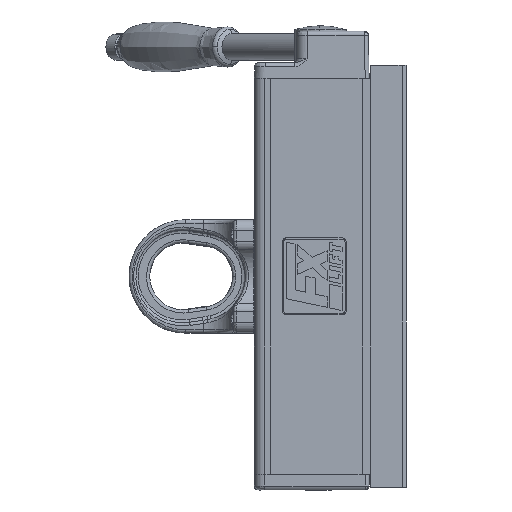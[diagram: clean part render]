
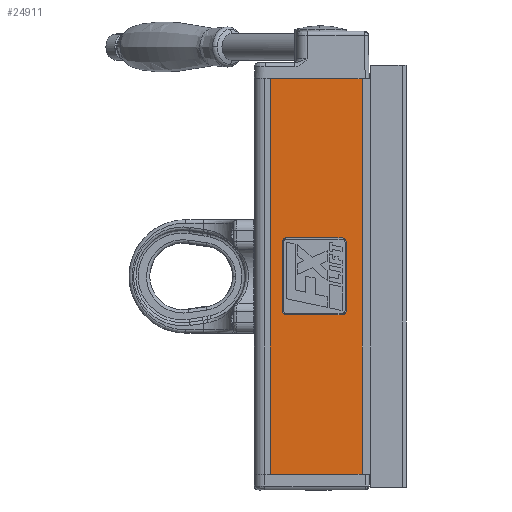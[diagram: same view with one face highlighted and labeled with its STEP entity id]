
A CAD part, left-side view. The second image highlights one B-rep face of the part: STEP entity #24911.
In plain terms, the highlighted planar face has unit normal (-1, 0, 0).
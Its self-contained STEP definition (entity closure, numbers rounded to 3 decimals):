
#480 = VERTEX_POINT ( 'NONE', #53820 ) ;
#827 = ORIENTED_EDGE ( 'NONE', *, *, #12209, .T. ) ;
#2340 = CARTESIAN_POINT ( 'NONE',  ( -54.5, 25.631, 29.163 ) ) ;
#2371 = FACE_OUTER_BOUND ( 'NONE', #34442, .T. ) ;
#2479 = VERTEX_POINT ( 'NONE', #10794 ) ;
#2505 = DIRECTION ( 'NONE',  ( 1., 0., 0. ) ) ;
#2716 = ORIENTED_EDGE ( 'NONE', *, *, #32974, .T. ) ;
#3443 = CARTESIAN_POINT ( 'NONE',  ( -54.5, 28.87, -25.892 ) ) ;
#4213 = CARTESIAN_POINT ( 'NONE',  ( -54.5, 28.87, 27.705 ) ) ;
#4722 = B_SPLINE_CURVE_WITH_KNOTS ( 'NONE', 3,
 ( #17913, #52042, #32665, #3443 ),
 .UNSPECIFIED., .F., .F.,
 ( 4, 4 ),
 ( 0.778, 1. ),
 .UNSPECIFIED. ) ;
#5367 = VECTOR ( 'NONE', #52840, 1000. ) ;
#6070 = ORIENTED_EDGE ( 'NONE', *, *, #56304, .T. ) ;
#6614 = CARTESIAN_POINT ( 'NONE',  ( -54.5, -19.708, 27.705 ) ) ;
#7698 = LINE ( 'NONE', #38308, #43498 ) ;
#8138 = B_SPLINE_CURVE_WITH_KNOTS ( 'NONE', 3,
 ( #9097, #4213, #14018, #48091 ),
 .UNSPECIFIED., .F., .F.,
 ( 4, 4 ),
 ( 0.111, 0.222 ),
 .UNSPECIFIED. ) ;
#8814 = VERTEX_POINT ( 'NONE', #2340 ) ;
#9093 = EDGE_CURVE ( 'NONE', #57161, #11183, #7698, .T. ) ;
#9097 = CARTESIAN_POINT ( 'NONE',  ( -54.5, 28.87, 25.924 ) ) ;
#9341 = CARTESIAN_POINT ( 'NONE',  ( -54.5, 38., 150. ) ) ;
#9346 = ORIENTED_EDGE ( 'NONE', *, *, #14802, .T. ) ;
#10521 = VECTOR ( 'NONE', #43763, 1000. ) ;
#10794 = CARTESIAN_POINT ( 'NONE',  ( -54.5, 38., -150. ) ) ;
#11064 = ORIENTED_EDGE ( 'NONE', *, *, #55659, .T. ) ;
#11183 = VERTEX_POINT ( 'NONE', #18639 ) ;
#11273 = CARTESIAN_POINT ( 'NONE',  ( -54.5, -19.708, -25.892 ) ) ;
#12062 = LINE ( 'NONE', #38895, #10521 ) ;
#12209 = EDGE_CURVE ( 'NONE', #46542, #8814, #8138, .T. ) ;
#12236 = CARTESIAN_POINT ( 'NONE',  ( -54.5, -18.251, -29.13 ) ) ;
#12353 = LINE ( 'NONE', #13084, #39810 ) ;
#13084 = CARTESIAN_POINT ( 'NONE',  ( -54.5, -19.708, 0. ) ) ;
#14018 = CARTESIAN_POINT ( 'NONE',  ( -54.5, 27.412, 29.163 ) ) ;
#14680 = DIRECTION ( 'NONE',  ( 0., 0., 1. ) ) ;
#14802 = EDGE_CURVE ( 'NONE', #28120, #480, #12062, .T. ) ;
#15576 = CARTESIAN_POINT ( 'NONE',  ( -54.5, -16.47, -29.13 ) ) ;
#16012 = VECTOR ( 'NONE', #48340, 1000. ) ;
#16182 = CARTESIAN_POINT ( 'NONE',  ( -54.5, -18.251, 29.163 ) ) ;
#16358 = CARTESIAN_POINT ( 'NONE',  ( -54.5, 28.87, 25.924 ) ) ;
#17803 = ORIENTED_EDGE ( 'NONE', *, *, #53702, .T. ) ;
#17913 = CARTESIAN_POINT ( 'NONE',  ( -54.5, 25.631, -29.13 ) ) ;
#18081 = CARTESIAN_POINT ( 'NONE',  ( -54.5, -32.5, -150. ) ) ;
#18304 = LINE ( 'NONE', #18685, #5367 ) ;
#18639 = CARTESIAN_POINT ( 'NONE',  ( -54.5, -32.5, 150. ) ) ;
#18685 = CARTESIAN_POINT ( 'NONE',  ( -54.5, -32.5, 150. ) ) ;
#19375 = CARTESIAN_POINT ( 'NONE',  ( -54.5, 28.87, 0. ) ) ;
#21888 = CARTESIAN_POINT ( 'NONE',  ( -54.5, 38., 150. ) ) ;
#24822 = CARTESIAN_POINT ( 'NONE',  ( -54.5, 38., 150. ) ) ;
#24832 = VERTEX_POINT ( 'NONE', #18081 ) ;
#24911 = ADVANCED_FACE ( 'NONE', ( #2371, #52705 ), #31714, .F. ) ;
#25776 = EDGE_CURVE ( 'NONE', #11183, #24832, #18304, .T. ) ;
#26730 = ORIENTED_EDGE ( 'NONE', *, *, #32333, .T. ) ;
#27479 = EDGE_CURVE ( 'NONE', #57161, #2479, #30568, .T. ) ;
#28061 = CARTESIAN_POINT ( 'NONE',  ( -54.5, -16.47, 29.163 ) ) ;
#28118 = VERTEX_POINT ( 'NONE', #44734 ) ;
#28120 = VERTEX_POINT ( 'NONE', #15576 ) ;
#28545 = DIRECTION ( 'NONE',  ( 0., -1., 0. ) ) ;
#29006 = CARTESIAN_POINT ( 'NONE',  ( -54.5, 38., -150. ) ) ;
#29585 = ORIENTED_EDGE ( 'NONE', *, *, #27479, .T. ) ;
#29589 = ORIENTED_EDGE ( 'NONE', *, *, #25776, .F. ) ;
#30568 = LINE ( 'NONE', #9341, #16012 ) ;
#31569 = VERTEX_POINT ( 'NONE', #56721 ) ;
#31658 = CARTESIAN_POINT ( 'NONE',  ( -54.5, -19.708, -25.892 ) ) ;
#31714 = PLANE ( 'NONE',  #36385 ) ;
#32333 = EDGE_CURVE ( 'NONE', #34427, #28120, #43230, .T. ) ;
#32665 = CARTESIAN_POINT ( 'NONE',  ( -54.5, 28.87, -27.673 ) ) ;
#32974 = EDGE_CURVE ( 'NONE', #28118, #46542, #48417, .T. ) ;
#34427 = VERTEX_POINT ( 'NONE', #11273 ) ;
#34442 = EDGE_LOOP ( 'NONE', ( #48867, #29589, #58449, #29585 ) ) ;
#36385 = AXIS2_PLACEMENT_3D ( 'NONE', #21888, #2505, #36598 ) ;
#36598 = DIRECTION ( 'NONE',  ( 0., 1., 0. ) ) ;
#37260 = VECTOR ( 'NONE', #56922, 1000. ) ;
#38308 = CARTESIAN_POINT ( 'NONE',  ( -54.5, 38., 150. ) ) ;
#38895 = CARTESIAN_POINT ( 'NONE',  ( -54.5, 0., -29.13 ) ) ;
#39780 = VERTEX_POINT ( 'NONE', #28061 ) ;
#39810 = VECTOR ( 'NONE', #52090, 1000. ) ;
#40675 = CARTESIAN_POINT ( 'NONE',  ( -54.5, -19.708, 25.924 ) ) ;
#41402 = EDGE_CURVE ( 'NONE', #39780, #31569, #49422, .T. ) ;
#43230 = B_SPLINE_CURVE_WITH_KNOTS ( 'NONE', 3,
 ( #31658, #60869, #12236, #46280 ),
 .UNSPECIFIED., .F., .F.,
 ( 4, 4 ),
 ( 0.556, 0.667 ),
 .UNSPECIFIED. ) ;
#43498 = VECTOR ( 'NONE', #28545, 1000. ) ;
#43565 = DIRECTION ( 'NONE',  ( 0., -1., 0. ) ) ;
#43763 = DIRECTION ( 'NONE',  ( 0., 1., 0. ) ) ;
#44734 = CARTESIAN_POINT ( 'NONE',  ( -54.5, 28.87, -25.892 ) ) ;
#46280 = CARTESIAN_POINT ( 'NONE',  ( -54.5, -16.47, -29.13 ) ) ;
#46399 = EDGE_CURVE ( 'NONE', #2479, #24832, #48685, .T. ) ;
#46542 = VERTEX_POINT ( 'NONE', #16358 ) ;
#46857 = VECTOR ( 'NONE', #14680, 1000. ) ;
#48091 = CARTESIAN_POINT ( 'NONE',  ( -54.5, 25.631, 29.163 ) ) ;
#48340 = DIRECTION ( 'NONE',  ( 0., 0., -1. ) ) ;
#48417 = LINE ( 'NONE', #19375, #46857 ) ;
#48685 = LINE ( 'NONE', #29006, #37260 ) ;
#48867 = ORIENTED_EDGE ( 'NONE', *, *, #46399, .T. ) ;
#49422 = B_SPLINE_CURVE_WITH_KNOTS ( 'NONE', 3,
 ( #50296, #16182, #6614, #40675 ),
 .UNSPECIFIED., .F., .F.,
 ( 4, 4 ),
 ( 0.333, 0.444 ),
 .UNSPECIFIED. ) ;
#50296 = CARTESIAN_POINT ( 'NONE',  ( -54.5, -16.47, 29.163 ) ) ;
#52042 = CARTESIAN_POINT ( 'NONE',  ( -54.5, 27.412, -29.13 ) ) ;
#52090 = DIRECTION ( 'NONE',  ( 0., 0., -1. ) ) ;
#52705 = FACE_BOUND ( 'NONE', #53553, .T. ) ;
#52840 = DIRECTION ( 'NONE',  ( 0., 0., -1. ) ) ;
#53553 = EDGE_LOOP ( 'NONE', ( #17803, #2716, #827, #11064, #60429, #6070, #26730, #9346 ) ) ;
#53702 = EDGE_CURVE ( 'NONE', #480, #28118, #4722, .T. ) ;
#53820 = CARTESIAN_POINT ( 'NONE',  ( -54.5, 25.631, -29.13 ) ) ;
#55120 = VECTOR ( 'NONE', #43565, 1000. ) ;
#55659 = EDGE_CURVE ( 'NONE', #8814, #39780, #56648, .T. ) ;
#56304 = EDGE_CURVE ( 'NONE', #31569, #34427, #12353, .T. ) ;
#56648 = LINE ( 'NONE', #61758, #55120 ) ;
#56721 = CARTESIAN_POINT ( 'NONE',  ( -54.5, -19.708, 25.924 ) ) ;
#56922 = DIRECTION ( 'NONE',  ( 0., -1., 0. ) ) ;
#57161 = VERTEX_POINT ( 'NONE', #24822 ) ;
#58449 = ORIENTED_EDGE ( 'NONE', *, *, #9093, .F. ) ;
#60429 = ORIENTED_EDGE ( 'NONE', *, *, #41402, .T. ) ;
#60869 = CARTESIAN_POINT ( 'NONE',  ( -54.5, -19.708, -27.673 ) ) ;
#61758 = CARTESIAN_POINT ( 'NONE',  ( -54.5, 0., 29.163 ) ) ;
